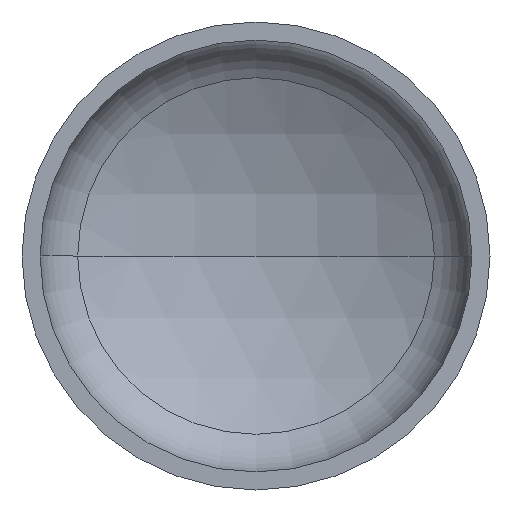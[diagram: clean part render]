
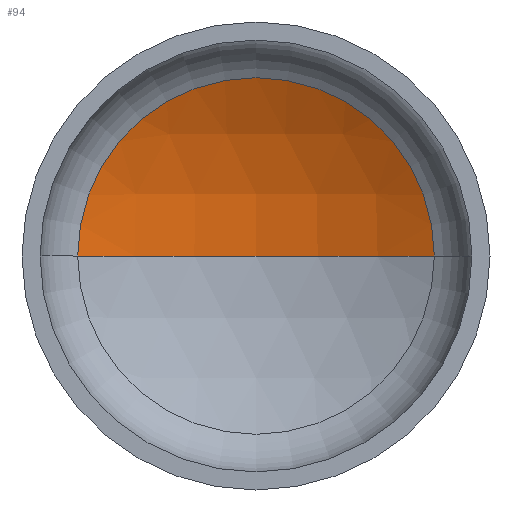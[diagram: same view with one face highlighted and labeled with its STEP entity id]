
A CAD part, front view. The second image highlights one B-rep face of the part: STEP entity #94.
In plain terms, the highlighted spherical face has radius 1120 mm.
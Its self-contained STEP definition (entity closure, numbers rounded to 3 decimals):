
#8 = EDGE_CURVE ( 'NONE', #33, #70, #281, .T. ) ;
#10 = EDGE_LOOP ( 'NONE', ( #99, #211, #85 ) ) ;
#33 = VERTEX_POINT ( 'NONE', #324 ) ;
#48 = EDGE_CURVE ( 'NONE', #92, #33, #332, .T. ) ;
#51 = EDGE_CURVE ( 'NONE', #92, #70, #262, .T. ) ;
#70 = VERTEX_POINT ( 'NONE', #188 ) ;
#85 = ORIENTED_EDGE ( 'NONE', *, *, #8, .T. ) ;
#90 = FACE_OUTER_BOUND ( 'NONE', #10, .T. ) ;
#92 = VERTEX_POINT ( 'NONE', #168 ) ;
#94 = ADVANCED_FACE ( 'NONE', ( #90 ), #112, .F. ) ;
#99 = ORIENTED_EDGE ( 'NONE', *, *, #51, .F. ) ;
#112 = SPHERICAL_SURFACE ( 'NONE', #297, 1120. ) ;
#132 = AXIS2_PLACEMENT_3D ( 'NONE', #220, #215, #334 ) ;
#168 = CARTESIAN_POINT ( 'NONE',  ( 0., 444.221, 0. ) ) ;
#173 = CARTESIAN_POINT ( 'NONE',  ( 0., -675.779, 0. ) ) ;
#176 = CARTESIAN_POINT ( 'NONE',  ( 0., -675.779, 0. ) ) ;
#177 = DIRECTION ( 'NONE',  ( 0., 0., -1. ) ) ;
#188 = CARTESIAN_POINT ( 'NONE',  ( -533.392, 309.052, 0. ) ) ;
#197 = DIRECTION ( 'NONE',  ( 0., 0., 1. ) ) ;
#198 = DIRECTION ( 'NONE',  ( 1., 0., 0. ) ) ;
#202 = CARTESIAN_POINT ( 'NONE',  ( 0., -675.779, 0. ) ) ;
#211 = ORIENTED_EDGE ( 'NONE', *, *, #48, .T. ) ;
#215 = DIRECTION ( 'NONE',  ( 0., -1., 0. ) ) ;
#220 = CARTESIAN_POINT ( 'NONE',  ( 0., 309.052, 0. ) ) ;
#222 = DIRECTION ( 'NONE',  ( -1., 0., 0. ) ) ;
#250 = AXIS2_PLACEMENT_3D ( 'NONE', #176, #177, #300 ) ;
#262 = CIRCLE ( 'NONE', #263, 1120. ) ;
#263 = AXIS2_PLACEMENT_3D ( 'NONE', #202, #197, #198 ) ;
#281 = CIRCLE ( 'NONE', #132, 533.392 ) ;
#297 = AXIS2_PLACEMENT_3D ( 'NONE', #173, #378, #222 ) ;
#300 = DIRECTION ( 'NONE',  ( -1., 0., 0. ) ) ;
#324 = CARTESIAN_POINT ( 'NONE',  ( 533.392, 309.052, 0. ) ) ;
#332 = CIRCLE ( 'NONE', #250, 1120. ) ;
#334 = DIRECTION ( 'NONE',  ( 1., 0., 0. ) ) ;
#378 = DIRECTION ( 'NONE',  ( 0., 0., -1. ) ) ;
